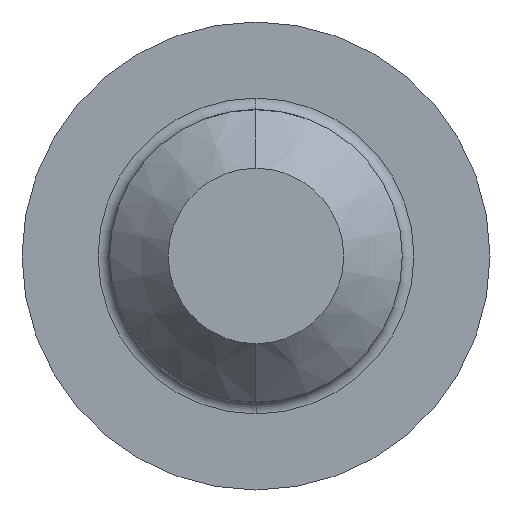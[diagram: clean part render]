
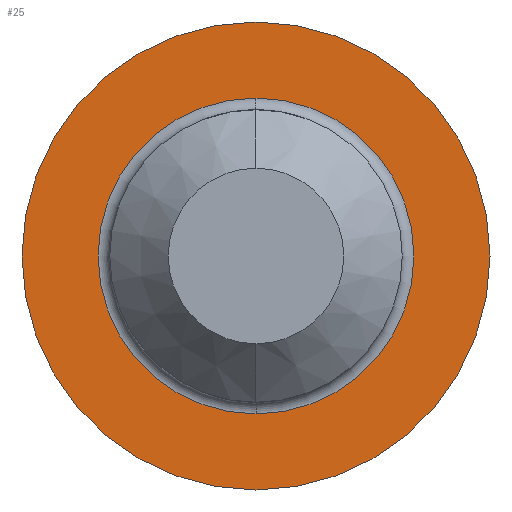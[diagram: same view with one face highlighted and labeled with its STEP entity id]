
A CAD part, left-side view. The second image highlights one B-rep face of the part: STEP entity #25.
In plain terms, the highlighted planar face has unit normal (-1, 0, 0).
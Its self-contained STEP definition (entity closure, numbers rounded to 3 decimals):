
#2 = VERTEX_POINT ( 'NONE', #125 ) ;
#3 = VERTEX_POINT ( 'NONE', #49 ) ;
#25 = ADVANCED_FACE ( 'NONE', ( #118, #121 ), #143, .F. ) ;
#30 = VERTEX_POINT ( 'NONE', #229 ) ;
#49 = CARTESIAN_POINT ( 'NONE',  ( 0., 0., -2.7 ) ) ;
#76 = EDGE_CURVE ( 'NONE', #77, #30, #330, .T. ) ;
#77 = VERTEX_POINT ( 'NONE', #299 ) ;
#116 = AXIS2_PLACEMENT_3D ( 'NONE', #120, #117, #145 ) ;
#117 = DIRECTION ( 'NONE',  ( 1., 0., 0. ) ) ;
#118 = FACE_BOUND ( 'NONE', #186, .T. ) ;
#120 = CARTESIAN_POINT ( 'NONE',  ( 0., 4., 0. ) ) ;
#121 = FACE_OUTER_BOUND ( 'NONE', #175, .T. ) ;
#125 = CARTESIAN_POINT ( 'NONE',  ( 0., 0., 2.7 ) ) ;
#130 = EDGE_CURVE ( 'NONE', #2, #3, #348, .T. ) ;
#143 = PLANE ( 'NONE',  #116 ) ;
#145 = DIRECTION ( 'NONE',  ( 0., 0., -1. ) ) ;
#148 = ORIENTED_EDGE ( 'NONE', *, *, #183, .T. ) ;
#175 = EDGE_LOOP ( 'NONE', ( #176, #148 ) ) ;
#176 = ORIENTED_EDGE ( 'NONE', *, *, #76, .T. ) ;
#177 = ORIENTED_EDGE ( 'NONE', *, *, #130, .T. ) ;
#179 = ORIENTED_EDGE ( 'NONE', *, *, #180, .T. ) ;
#180 = EDGE_CURVE ( 'NONE', #3, #2, #414, .T. ) ;
#183 = EDGE_CURVE ( 'NONE', #30, #77, #437, .T. ) ;
#186 = EDGE_LOOP ( 'NONE', ( #179, #177 ) ) ;
#198 = DIRECTION ( 'NONE',  ( 1., 0., 0. ) ) ;
#229 = CARTESIAN_POINT ( 'NONE',  ( 0., 0., -4. ) ) ;
#251 = DIRECTION ( 'NONE',  ( 0., 0., -1. ) ) ;
#252 = AXIS2_PLACEMENT_3D ( 'NONE', #257, #198, #251 ) ;
#257 = CARTESIAN_POINT ( 'NONE',  ( 0., 0., 0. ) ) ;
#299 = CARTESIAN_POINT ( 'NONE',  ( 0., 0., 4. ) ) ;
#328 = DIRECTION ( 'NONE',  ( 0., 0., 1. ) ) ;
#329 = AXIS2_PLACEMENT_3D ( 'NONE', #365, #339, #328 ) ;
#330 = CIRCLE ( 'NONE', #329, 4. ) ;
#339 = DIRECTION ( 'NONE',  ( -1., 0., 0. ) ) ;
#348 = CIRCLE ( 'NONE', #252, 2.7 ) ;
#365 = CARTESIAN_POINT ( 'NONE',  ( 0., 0., 0. ) ) ;
#413 = AXIS2_PLACEMENT_3D ( 'NONE', #439, #433, #432 ) ;
#414 = CIRCLE ( 'NONE', #413, 2.7 ) ;
#428 = DIRECTION ( 'NONE',  ( 0., 0., 1. ) ) ;
#429 = DIRECTION ( 'NONE',  ( -1., 0., 0. ) ) ;
#430 = CARTESIAN_POINT ( 'NONE',  ( 0., 0., 0. ) ) ;
#431 = AXIS2_PLACEMENT_3D ( 'NONE', #430, #429, #428 ) ;
#432 = DIRECTION ( 'NONE',  ( 0., 0., -1. ) ) ;
#433 = DIRECTION ( 'NONE',  ( 1., 0., 0. ) ) ;
#437 = CIRCLE ( 'NONE', #431, 4. ) ;
#439 = CARTESIAN_POINT ( 'NONE',  ( 0., 0., 0. ) ) ;
